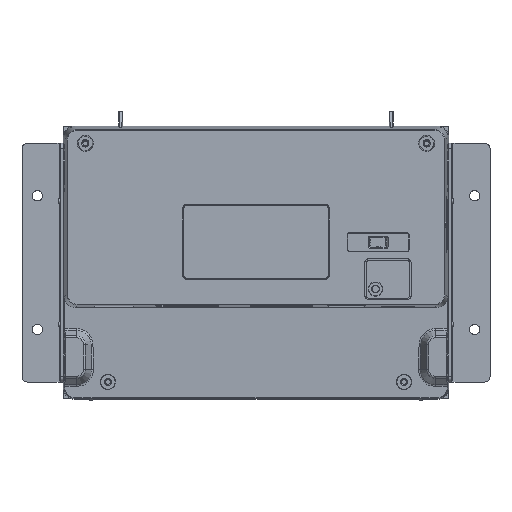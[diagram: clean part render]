
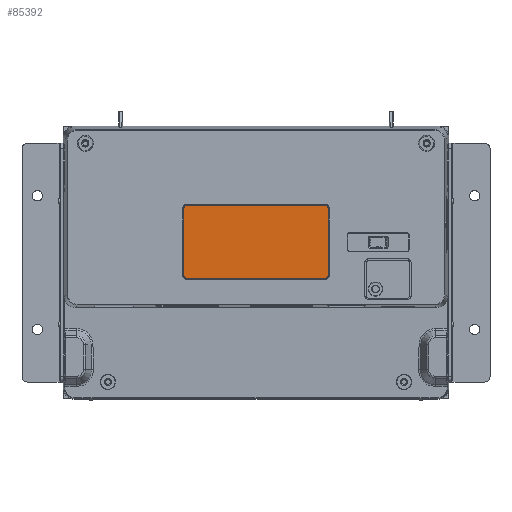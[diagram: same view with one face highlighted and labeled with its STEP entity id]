
A CAD part, top view. The second image highlights one B-rep face of the part: STEP entity #85392.
In plain terms, the highlighted planar face has unit normal (0, 0, 1) as drawn and (0, 0, -1) by its records, which use the part's own axes.
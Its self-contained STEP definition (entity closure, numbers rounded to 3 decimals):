
#70643=DIRECTION('',(-1.,0.,0.));
#70644=VECTOR('',#70643,67.);
#70645=CARTESIAN_POINT('',(33.5,27.8,0.2));
#70646=LINE('',#70645,#70644);
#70656=CARTESIAN_POINT('',(-33.5,26.1,0.2));
#70657=DIRECTION('',(0.,0.,-1.));
#70658=DIRECTION('',(-1.,0.,0.));
#70659=AXIS2_PLACEMENT_3D('',#70656,#70657,#70658);
#70661=CARTESIAN_POINT('',(-33.5,-5.9,0.2));
#70662=DIRECTION('',(0.,0.,-1.));
#70663=DIRECTION('',(0.,-1.,0.));
#70664=AXIS2_PLACEMENT_3D('',#70661,#70662,#70663);
#70666=CARTESIAN_POINT('',(33.5,-5.9,0.2));
#70667=DIRECTION('',(0.,0.,-1.));
#70668=DIRECTION('',(1.,0.,0.));
#70669=AXIS2_PLACEMENT_3D('',#70666,#70667,#70668);
#70671=CARTESIAN_POINT('',(33.5,26.1,0.2));
#70672=DIRECTION('',(0.,0.,-1.));
#70673=DIRECTION('',(0.,1.,0.));
#70674=AXIS2_PLACEMENT_3D('',#70671,#70672,#70673);
#70684=DIRECTION('',(0.,-1.,0.));
#70685=VECTOR('',#70684,32.);
#70686=CARTESIAN_POINT('',(-35.2,26.1,0.2));
#70687=LINE('',#70686,#70685);
#70697=DIRECTION('',(1.,0.,0.));
#70698=VECTOR('',#70697,67.);
#70699=CARTESIAN_POINT('',(-33.5,-7.6,0.2));
#70700=LINE('',#70699,#70698);
#70714=DIRECTION('',(0.,1.,0.));
#70715=VECTOR('',#70714,32.);
#70716=CARTESIAN_POINT('',(35.2,-5.9,0.2));
#70717=LINE('',#70716,#70715);
#74008=CARTESIAN_POINT('',(-35.2,26.1,0.2));
#74009=CARTESIAN_POINT('',(-33.5,27.8,0.2));
#74010=VERTEX_POINT('',#74008);
#74011=VERTEX_POINT('',#74009);
#74016=CARTESIAN_POINT('',(33.5,27.8,0.2));
#74017=CARTESIAN_POINT('',(35.2,26.1,0.2));
#74018=VERTEX_POINT('',#74016);
#74019=VERTEX_POINT('',#74017);
#74024=CARTESIAN_POINT('',(35.2,-5.9,0.2));
#74025=CARTESIAN_POINT('',(33.5,-7.6,0.2));
#74026=VERTEX_POINT('',#74024);
#74027=VERTEX_POINT('',#74025);
#74032=CARTESIAN_POINT('',(-33.5,-7.6,0.2));
#74033=CARTESIAN_POINT('',(-35.2,-5.9,0.2));
#74034=VERTEX_POINT('',#74032);
#74035=VERTEX_POINT('',#74033);
#85371=CARTESIAN_POINT('',(0.,0.,0.2));
#85372=DIRECTION('',(0.,0.,-1.));
#85373=DIRECTION('',(-1.,0.,0.));
#85374=AXIS2_PLACEMENT_3D('',#85371,#85372,#85373);
#85375=PLANE('',#85374);
#85376=ORIENTED_EDGE('',*,*,#85362,.F.);
#85378=ORIENTED_EDGE('',*,*,#85377,.T.);
#85380=ORIENTED_EDGE('',*,*,#85379,.F.);
#85382=ORIENTED_EDGE('',*,*,#85381,.T.);
#85384=ORIENTED_EDGE('',*,*,#85383,.F.);
#85386=ORIENTED_EDGE('',*,*,#85385,.T.);
#85388=ORIENTED_EDGE('',*,*,#85387,.F.);
#85389=ORIENTED_EDGE('',*,*,#85349,.T.);
#85390=EDGE_LOOP('',(#85376,#85378,#85380,#85382,#85384,#85386,#85388,#85389));
#85391=FACE_OUTER_BOUND('',#85390,.F.);
#85392=ADVANCED_FACE('',(#85391),#85375,.T.);
#70660=CIRCLE('',#70659,1.7);
#70665=CIRCLE('',#70664,1.7);
#70670=CIRCLE('',#70669,1.7);
#70675=CIRCLE('',#70674,1.7);
#85349=EDGE_CURVE('',#74018,#74011,#70646,.T.);
#85362=EDGE_CURVE('',#74010,#74011,#70660,.T.);
#85377=EDGE_CURVE('',#74010,#74035,#70687,.T.);
#85379=EDGE_CURVE('',#74034,#74035,#70665,.T.);
#85381=EDGE_CURVE('',#74034,#74027,#70700,.T.);
#85383=EDGE_CURVE('',#74026,#74027,#70670,.T.);
#85385=EDGE_CURVE('',#74026,#74019,#70717,.T.);
#85387=EDGE_CURVE('',#74018,#74019,#70675,.T.);
